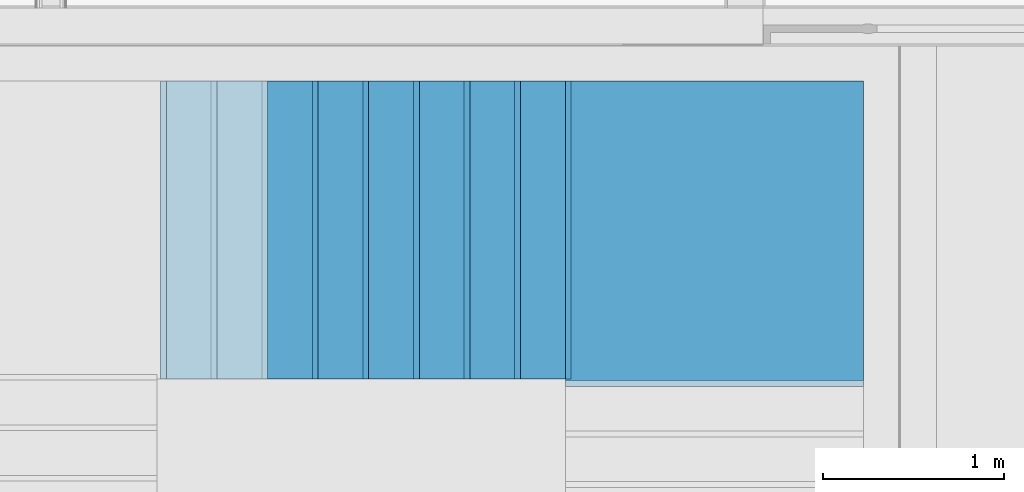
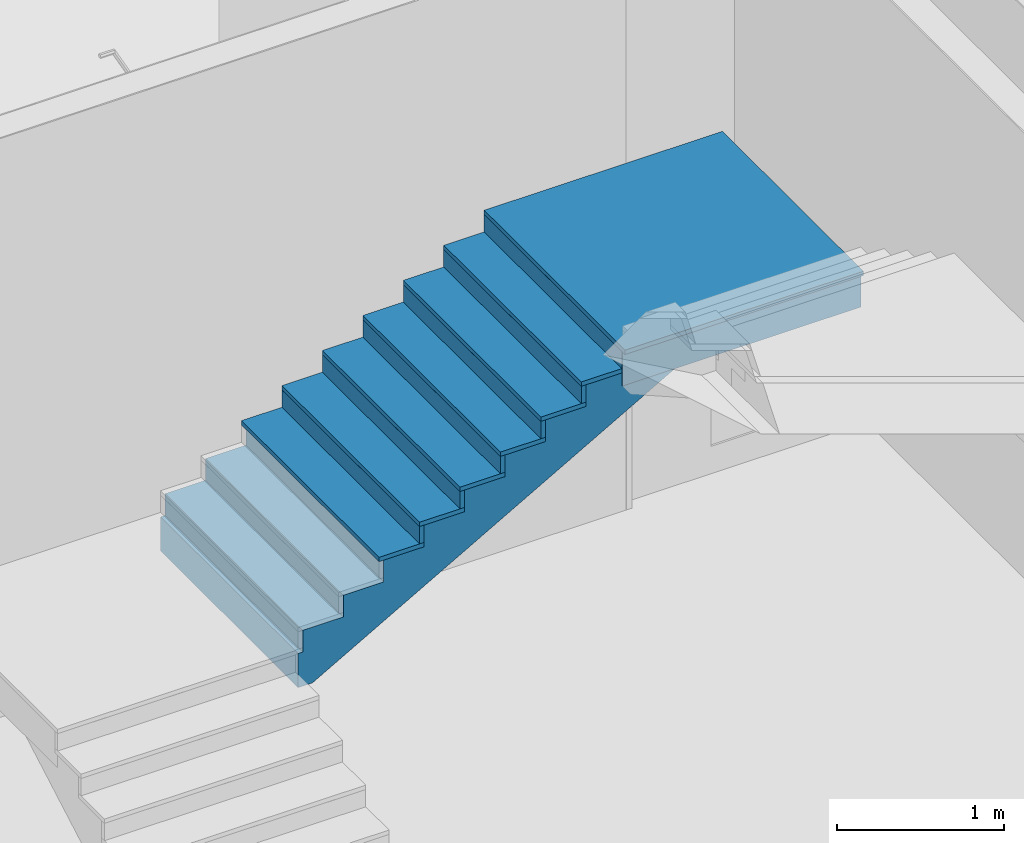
# One storey, part 83 of 260: 15 members, 1 element without a shape of its own.
"""IFC2X3 building model written with IfcOpenShell, lengths in millimetres."""

from ifc_helpers import new_model, entity, si_unit, converted_unit, derived_unit, money_unit, direction, frame, origin_with_axes, place, context, subcontext, project, spatial, faceted_brep, material, type_object, element, aggregate, save


model = new_model("IFC2X3")

# Units and contexts
model_context = context("Model", 3, precision=0.01, world=origin_with_axes(), true_north=direction((0.0, 1.0)))
body_context = subcontext(model_context, "Body", "Model", "MODEL_VIEW")
ifc_project = project(units=[si_unit("LENGTHUNIT", "METRE", prefix="MILLI"), si_unit("AREAUNIT", "SQUARE_METRE"), si_unit("VOLUMEUNIT", "CUBIC_METRE"), converted_unit("PLANEANGLEUNIT", "DEGREE", entity("IfcPlaneAngleMeasure", 0.0174532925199), si_unit("PLANEANGLEUNIT", "RADIAN"), dimensions=[0, 0, 0, 0, 0, 0, 0]), money_unit("EUR"), converted_unit("TIMEUNIT", "Year", entity("IfcTimeMeasure", 31556926.0), si_unit("TIMEUNIT", "SECOND"), dimensions=[0, 0, 1, 0, 0, 0, 0]), si_unit("MASSUNIT", "GRAM", prefix="KILO"), si_unit("THERMODYNAMICTEMPERATUREUNIT", "DEGREE_CELSIUS"), si_unit("LUMINOUSINTENSITYUNIT", "LUMEN"), si_unit("ENERGYUNIT", "JOULE", prefix="MEGA"), derived_unit("THERMALCONDUCTANCEUNIT", [(si_unit("POWERUNIT", "WATT"), 1), (si_unit("LENGTHUNIT", "METRE"), -1), (si_unit("THERMODYNAMICTEMPERATUREUNIT", "KELVIN"), -1)]), derived_unit("SPECIFICHEATCAPACITYUNIT", [(si_unit("ENERGYUNIT", "JOULE"), 1), (si_unit("MASSUNIT", "GRAM", prefix="KILO"), -1), (si_unit("THERMODYNAMICTEMPERATUREUNIT", "KELVIN"), -1)]), derived_unit("MASSDENSITYUNIT", [(si_unit("MASSUNIT", "GRAM", prefix="KILO"), 1), (si_unit("VOLUMEUNIT", "CUBIC_METRE"), -1)])], contexts=[model_context])

# Site, building, storey
site_placement = place(None, origin_with_axes())
site = spatial("IfcSite", under=ifc_project, at=site_placement, Name="Kolde pst 67a", CompositionType="ELEMENT")
building_placement = place(site_placement, origin_with_axes())
building = spatial("IfcBuilding", under=site, at=building_placement, Name="Riigigümnaasium", CompositionType="ELEMENT")
storey_placement = place(building_placement, origin_with_axes())
storey = spatial("IfcBuildingStorey", under=building, at=storey_placement, Name="1. korrus", CompositionType="ELEMENT", Elevation=0.0)

# Stair, members
stair_placement = place(storey_placement, frame((55074.9583238, 31162.4614213, 0.0), z_axis=(0.0, 0.0, 1.0), x_axis=(1.0, 0.0, 0.0)))
stair = element("IfcStair", 1, at=stair_placement, inside=storey, Name="TREPP", ShapeType="NOTDEFINED")
ifc_material_1 = material(Name="_KANDETARIND - raudbetoon C25/30 vastavalt EK osale")
member_type_1 = type_object("IfcMemberType", Name="IfcMember", PredefinedType="USERDEFINED")
member_1_placement = place(stair_placement, origin_with_axes())
member_1 = element("IfcMember", 2, at=member_1_placement, type_object=member_type_1, material=ifc_material_1, Name="TT KONSTRUKTSIOON - 016", ObjectType="Stair Structure", context=body_context, shape_type="Brep", body=[
    faceted_brep([(2350.02571284, 1222.51929532, 2414.55172414), (2350.02571284, 2872.51928463, 2414.55172414), (2350.02571284, 2872.51928463, 2505.93103448), (2350.02571284, 1222.51928463, 2505.93103448), (2727.91907393, 1222.51929532, 2414.55172414), (2727.91907393, 2872.51928463, 2414.55172414), (2350.02571284, 2872.51928463, 2200.4741979), (2256.6923795, 2872.51928463, 2147.60063468), (2163.35904617, 2872.51928463, 2094.72707146), (2070.02571284, 2872.51928463, 2041.85350824), (1976.6923795, 2872.51928463, 1988.97994502), (1883.35904617, 2872.51928463, 1936.10638181), (1790.02571284, 2872.51928463, 1883.23281859), (1696.6923795, 2872.51928463, 1830.35925537), (1603.35904617, 2872.51928463, 1777.48569215), (1510.02571284, 2872.51928463, 1724.61212893), (1416.6923795, 2872.51928463, 1671.73856571), (1323.35904617, 2872.51928463, 1618.86500249), (1230.02571284, 2872.51928463, 1565.99143928), (1136.6923795, 2872.51928463, 1513.11787606), (1043.35904617, 2872.51928463, 1460.24431284), (950.025712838, 2872.51928463, 1407.37074962), (856.692379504, 2872.51928463, 1354.4971864), (763.359046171, 2872.51928463, 1301.62362318), (670.025712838, 2872.51928463, 1248.75005997), (576.692379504, 2872.51928463, 1195.87649675), (483.359046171, 2872.51928463, 1143.00293353), (390.025712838, 2872.51928463, 1090.12937031), (296.692379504, 2872.51929065, 1037.25580709), (207.919085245, 2872.51929065, 986.965517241), (110.025712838, 2872.51928956, 986.965517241), (110.025712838, 2872.51928463, 1236.96551724), (142.025712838, 2872.51928463, 1236.96551724), (142.025712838, 2872.51928463, 1395.5862069), (422.025712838, 2872.51928463, 1395.5862069), (422.025712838, 2872.51928463, 1554.20689655), (702.025712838, 2872.51928463, 1554.20689655), (702.025712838, 2872.51928463, 1712.82758621), (982.025712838, 2872.51928463, 1712.82758621), (982.025712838, 2872.51928463, 1871.44827586), (1262.02571284, 2872.51928463, 1871.44827586), (1262.02571284, 2872.51928463, 2030.06896552), (1542.02571284, 2872.51928463, 2030.06896552), (1542.02571284, 2872.51928463, 2188.68965517), (1822.02571284, 2872.51928463, 2188.68965517), (1822.02571284, 2872.51928463, 2347.31034483), (2102.02571284, 2872.51928463, 2347.31034483), (2102.02571284, 2872.51928463, 2505.93103448), (2102.02571284, 1222.51928463, 2505.93103448), (2102.02571284, 1222.51928463, 2347.31034483), (1822.02571284, 1222.51928463, 2347.31034483), (1822.02571284, 1222.51928463, 2188.68965517), (1542.02571284, 1222.51928463, 2188.68965517), (1542.02571284, 1222.51928463, 2030.06896552), (1262.02571284, 1222.51928463, 2030.06896552), (1262.02571284, 1222.51928463, 1871.44827586), (982.025712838, 1222.51928463, 1871.44827586), (982.025712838, 1222.51928463, 1712.82758621), (702.025712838, 1222.51928463, 1712.82758621), (702.025712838, 1222.51928463, 1554.20689655), (422.025712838, 1222.51928463, 1554.20689655), (422.025712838, 1222.51928463, 1395.5862069), (142.025712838, 1222.51928463, 1395.5862069), (142.025712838, 1222.51928463, 1236.96551724), (110.025712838, 1222.51928463, 1236.96551724), (110.025712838, 1222.51928463, 986.965517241), (207.919085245, 1222.51928463, 986.965517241), (296.692379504, 1222.51928463, 1037.25580709), (390.025712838, 1222.51928463, 1090.12937031), (483.359046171, 1222.51928463, 1143.00293353), (576.692379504, 1222.51928463, 1195.87649675), (670.025712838, 1222.51928463, 1248.75005997), (763.359046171, 1222.51928463, 1301.62362318), (856.692379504, 1222.51928463, 1354.4971864), (950.025712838, 1222.51928463, 1407.37074962), (1043.35904617, 1222.51928463, 1460.24431284), (1136.6923795, 1222.51928463, 1513.11787606), (1230.02571284, 1222.51928463, 1565.99143928), (1323.35904617, 1222.51928463, 1618.86500249), (1416.6923795, 1222.51928463, 1671.73856571), (1510.02571284, 1222.51928463, 1724.61212893), (1603.35904617, 1222.51928463, 1777.48569215), (1696.6923795, 1222.51928463, 1830.35925537), (1790.02571284, 1222.51928463, 1883.23281859), (1883.35904617, 1222.51928463, 1936.10638181), (1976.6923795, 1222.51928463, 1988.97994502), (2070.02571284, 1222.51928463, 2041.85350824), (2163.35904617, 1222.51928463, 2094.72707146), (2256.6923795, 1222.51928463, 2147.60063468), (2350.02571284, 1222.51929532, 2200.4741979)], [[[0, 1, 2, 3]], [[1, 0, 4, 5]], [[6, 7, 8, 9, 10, 11, 12, 13, 14, 15, 16, 17, 18, 19, 20, 21, 22, 23, 24, 25, 26, 27, 28, 29, 30, 31, 32, 33, 34, 35, 36, 37, 38, 39, 40, 41, 42, 43, 44, 45, 46, 47, 2, 1, 5]], [[3, 2, 47, 48]], [[0, 3, 48, 49, 50, 51, 52, 53, 54, 55, 56, 57, 58, 59, 60, 61, 62, 63, 64, 65, 66, 67, 68, 69, 70, 71, 72, 73, 74, 75, 76, 77, 78, 79, 80, 81, 82, 83, 84, 85, 86, 87, 88, 89, 4]], [[89, 88, 7, 6, 5, 4]], [[87, 8, 7, 88]], [[86, 9, 8, 87]], [[85, 10, 9, 86]], [[84, 11, 10, 85]], [[83, 12, 11, 84]], [[82, 13, 12, 83]], [[81, 14, 13, 82]], [[80, 15, 14, 81]], [[79, 16, 15, 80]], [[78, 17, 16, 79]], [[77, 18, 17, 78]], [[76, 19, 18, 77]], [[75, 20, 19, 76]], [[74, 21, 20, 75]], [[73, 22, 21, 74]], [[72, 23, 22, 73]], [[71, 24, 23, 72]], [[70, 25, 24, 71]], [[69, 26, 25, 70]], [[68, 27, 26, 69]], [[67, 28, 27, 68]], [[66, 29, 28, 67]], [[65, 30, 29, 66]], [[30, 65, 64, 31]], [[64, 63, 32, 31]], [[32, 63, 62, 33]], [[33, 62, 61, 34]], [[34, 61, 60, 35]], [[35, 60, 59, 36]], [[36, 59, 58, 37]], [[37, 58, 57, 38]], [[38, 57, 56, 39]], [[39, 56, 55, 40]], [[40, 55, 54, 41]], [[41, 54, 53, 42]], [[42, 53, 52, 43]], [[43, 52, 51, 44]], [[44, 51, 50, 45]], [[45, 50, 49, 46]], [[46, 49, 48, 47]]]),
])
member_2_placement = place(stair_placement, origin_with_axes())
member_2 = element("IfcMember", 3, at=member_2_placement, type_object=member_type_1, material=ifc_material_1, Name="TM KONSTRUKTSIOON - 013", ObjectType="Stair Structure", context=body_context, shape_type="Brep", body=[
    faceted_brep([(2350.02571284, 1215.00000702, 2664.55172414), (4000.02570215, 1215.00000702, 2664.55172414), (4000.02570215, 2872.51928463, 2664.55172414), (2382.02570861, 2872.51927517, 2664.55172414), (2382.02570861, 1222.51929504, 2664.55172414), (2350.02571284, 1222.51929397, 2664.55172414), (4000.02570215, 1215.00000702, 2414.55172414), (2350.02571284, 1215.00000702, 2414.55172414), (4000.02570215, 2872.51928463, 2414.55172414), (2350.02571284, 2872.51928463, 2414.55172414), (2350.02571284, 2872.51927614, 2505.93103448), (2382.02570861, 2872.51927517, 2505.93103448), (2382.02570861, 1222.51929504, 2505.93103448), (2350.02571284, 1222.51929397, 2505.93103448)], [[[0, 1, 2, 3, 4, 5]], [[6, 1, 0, 7]], [[1, 6, 8, 2]], [[9, 10, 11, 3, 2, 8]], [[12, 4, 3, 11]], [[13, 5, 4, 12]], [[7, 0, 5, 13, 10, 9]], [[6, 7, 9, 8]], [[12, 11, 10, 13]]]),
])
ifc_material_2 = material(Name="_VIIMISTLUSKIHT - viimistlus vastavalt SA osale")
member_type_2 = type_object("IfcMemberType", Name="IfcMember", PredefinedType="USERDEFINED")
member_3_placement = place(stair_placement, frame((950.025712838, 2047.51928463, 1871.44827586), z_axis=(0.0, 0.0, 1.0), x_axis=(0.0, -1.0, 0.0)))
member_3 = element("IfcMember", 4, at=member_3_placement, type_object=member_type_2, material=ifc_material_2, Name="TV TÕUS - 120", ObjectType="Stair Riser", context=body_context, shape_type="Brep", body=[
    faceted_brep([(825.0, 0.0, 0.0), (825.0, 32.0, 0.0), (-825.0, 32.0, 0.0), (-825.0, 0.0, 0.0), (825.0, 0.0, -126.620689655), (825.0, 32.0, -126.620689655), (-825.0, 32.0, -126.620689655), (-825.0, 0.0, -126.620689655)], [[[0, 1, 2, 3]], [[0, 4, 5, 1]], [[1, 5, 6, 2]], [[3, 2, 6, 7]], [[4, 0, 3, 7]], [[5, 4, 7, 6]]]),
])
member_4_placement = place(stair_placement, frame((1230.02571284, 2047.51928463, 2030.06896552), z_axis=(0.0, 0.0, 1.0), x_axis=(0.0, -1.0, 0.0)))
member_4 = element("IfcMember", 5, at=member_4_placement, type_object=member_type_2, material=ifc_material_2, Name="TV TÕUS - 121", ObjectType="Stair Riser", context=body_context, shape_type="Brep", body=[
    faceted_brep([(825.0, 0.0, 0.0), (825.0, 32.0, 0.0), (-825.0, 32.0, 0.0), (-825.0, 0.0, 0.0), (825.0, 0.0, -126.620689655), (825.0, 32.0, -126.620689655), (-825.0, 32.0, -126.620689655), (-825.0, 0.0, -126.620689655)], [[[0, 1, 2, 3]], [[0, 4, 5, 1]], [[1, 5, 6, 2]], [[3, 2, 6, 7]], [[4, 0, 3, 7]], [[5, 4, 7, 6]]]),
])
member_5_placement = place(stair_placement, frame((1510.02571284, 2047.51928463, 2188.68965517), z_axis=(0.0, 0.0, 1.0), x_axis=(0.0, -1.0, 0.0)))
member_5 = element("IfcMember", 6, at=member_5_placement, type_object=member_type_2, material=ifc_material_2, Name="TV TÕUS - 122", ObjectType="Stair Riser", context=body_context, shape_type="Brep", body=[
    faceted_brep([(825.0, 0.0, 0.0), (825.0, 32.0, 0.0), (-825.0, 32.0, 0.0), (-825.0, 0.0, 0.0), (825.0, 0.0, -126.620689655), (825.0, 32.0, -126.620689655), (-825.0, 32.0, -126.620689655), (-825.0, 0.0, -126.620689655)], [[[0, 1, 2, 3]], [[0, 4, 5, 1]], [[1, 5, 6, 2]], [[3, 2, 6, 7]], [[4, 0, 3, 7]], [[5, 4, 7, 6]]]),
])
member_6_placement = place(stair_placement, frame((1790.02571284, 2047.51928463, 2347.31034483), z_axis=(0.0, 0.0, 1.0), x_axis=(0.0, -1.0, 0.0)))
member_6 = element("IfcMember", 7, at=member_6_placement, type_object=member_type_2, material=ifc_material_2, Name="TV TÕUS - 123", ObjectType="Stair Riser", context=body_context, shape_type="Brep", body=[
    faceted_brep([(825.0, 0.0, 0.0), (825.0, 32.0, 0.0), (-825.0, 32.0, 0.0), (-825.0, 0.0, 0.0), (825.0, 0.0, -126.620689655), (825.0, 32.0, -126.620689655), (-825.0, 32.0, -126.620689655), (-825.0, 0.0, -126.620689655)], [[[0, 1, 2, 3]], [[0, 4, 5, 1]], [[1, 5, 6, 2]], [[3, 2, 6, 7]], [[4, 0, 3, 7]], [[5, 4, 7, 6]]]),
])
member_7_placement = place(stair_placement, frame((2070.02571284, 2047.51928463, 2505.93103448), z_axis=(0.0, 0.0, 1.0), x_axis=(0.0, -1.0, 0.0)))
member_7 = element("IfcMember", 8, at=member_7_placement, type_object=member_type_2, material=ifc_material_2, Name="TV TÕUS - 124", ObjectType="Stair Riser", context=body_context, shape_type="Brep", body=[
    faceted_brep([(825.0, 0.0, 0.0), (825.0, 32.0, 0.0), (-825.0, 32.0, 0.0), (-825.0, 0.0, 0.0), (825.0, 0.0, -126.620689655), (825.0, 32.0, -126.620689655), (-825.0, 32.0, -126.620689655), (-825.0, 0.0, -126.620689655)], [[[0, 1, 2, 3]], [[0, 4, 5, 1]], [[1, 5, 6, 2]], [[3, 2, 6, 7]], [[4, 0, 3, 7]], [[5, 4, 7, 6]]]),
])
member_8_placement = place(stair_placement, frame((2350.02571284, 2047.51928463, 2664.55172414), z_axis=(0.0, 0.0, 1.0), x_axis=(0.0, -1.0, 0.0)))
member_8 = element("IfcMember", 9, at=member_8_placement, type_object=member_type_2, material=ifc_material_2, Name="SL RISER - 013", ObjectType="Stair Riser", context=body_context, shape_type="Brep", body=[
    faceted_brep([(825.0, 0.0, 0.0), (825.0, 32.0, 0.0), (-825.0, 32.0, 0.0), (-825.0, 0.0, 0.0), (825.0, 0.0, -126.620689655), (825.0, 32.0, -126.620689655), (-825.0, 32.0, -126.620689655), (-825.0, 0.0, -126.620689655)], [[[0, 1, 2, 3]], [[0, 4, 5, 1]], [[1, 5, 6, 2]], [[3, 2, 6, 7]], [[4, 0, 3, 7]], [[5, 4, 7, 6]]]),
])
member_type_3 = type_object("IfcMemberType", Name="IfcMember", PredefinedType="USERDEFINED")
member_9_placement = place(stair_placement, frame((670.025712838, 2047.51928463, 1744.82758621), z_axis=(0.0, 0.0, 1.0), x_axis=(0.0, -1.0, 0.0)))
member_9 = element("IfcMember", 10, at=member_9_placement, type_object=member_type_3, material=ifc_material_2, Name="TV ASTE - 119", ObjectType="Stair Tread", context=body_context, shape_type="Brep", body=[
    faceted_brep([(-825.0, 0.0, -32.0), (825.0, 0.0, -32.0), (825.0, 0.0, 0.0), (-825.0, 0.0, 0.0), (-825.0, 312.0, -32.0), (825.0, 312.0, -32.0), (825.0, 312.0, 0.0), (-825.0, 312.0, 0.0)], [[[0, 1, 2, 3]], [[0, 4, 5, 1]], [[1, 5, 6, 2]], [[3, 2, 6, 7]], [[4, 0, 3, 7]], [[5, 4, 7, 6]]]),
])
member_10_placement = place(stair_placement, frame((950.025712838, 2047.51928463, 1903.44827586), z_axis=(0.0, 0.0, 1.0), x_axis=(0.0, -1.0, 0.0)))
member_10 = element("IfcMember", 11, at=member_10_placement, type_object=member_type_3, material=ifc_material_2, Name="TV ASTE - 120", ObjectType="Stair Tread", context=body_context, shape_type="Brep", body=[
    faceted_brep([(-825.0, 0.0, -32.0), (825.0, 0.0, -32.0), (825.0, 0.0, 0.0), (-825.0, 0.0, 0.0), (-825.0, 312.0, -32.0), (825.0, 312.0, -32.0), (825.0, 312.0, 0.0), (-825.0, 312.0, 0.0)], [[[0, 1, 2, 3]], [[0, 4, 5, 1]], [[1, 5, 6, 2]], [[3, 2, 6, 7]], [[4, 0, 3, 7]], [[5, 4, 7, 6]]]),
])
member_11_placement = place(stair_placement, frame((1230.02571284, 2047.51928463, 2062.06896552), z_axis=(0.0, 0.0, 1.0), x_axis=(0.0, -1.0, 0.0)))
member_11 = element("IfcMember", 12, at=member_11_placement, type_object=member_type_3, material=ifc_material_2, Name="TV ASTE - 121", ObjectType="Stair Tread", context=body_context, shape_type="Brep", body=[
    faceted_brep([(-825.0, 0.0, -32.0), (825.0, 0.0, -32.0), (825.0, 0.0, 0.0), (-825.0, 0.0, 0.0), (-825.0, 312.0, -32.0), (825.0, 312.0, -32.0), (825.0, 312.0, 0.0), (-825.0, 312.0, 0.0)], [[[0, 1, 2, 3]], [[0, 4, 5, 1]], [[1, 5, 6, 2]], [[3, 2, 6, 7]], [[4, 0, 3, 7]], [[5, 4, 7, 6]]]),
])
member_12_placement = place(stair_placement, frame((1510.02571284, 2047.51928463, 2220.68965517), z_axis=(0.0, 0.0, 1.0), x_axis=(0.0, -1.0, 0.0)))
member_12 = element("IfcMember", 13, at=member_12_placement, type_object=member_type_3, material=ifc_material_2, Name="TV ASTE - 122", ObjectType="Stair Tread", context=body_context, shape_type="Brep", body=[
    faceted_brep([(-825.0, 0.0, -32.0), (825.0, 0.0, -32.0), (825.0, 0.0, 0.0), (-825.0, 0.0, 0.0), (-825.0, 312.0, -32.0), (825.0, 312.0, -32.0), (825.0, 312.0, 0.0), (-825.0, 312.0, 0.0)], [[[0, 1, 2, 3]], [[0, 4, 5, 1]], [[1, 5, 6, 2]], [[3, 2, 6, 7]], [[4, 0, 3, 7]], [[5, 4, 7, 6]]]),
])
member_13_placement = place(stair_placement, frame((1790.02571284, 2047.51928463, 2379.31034483), z_axis=(0.0, 0.0, 1.0), x_axis=(0.0, -1.0, 0.0)))
member_13 = element("IfcMember", 14, at=member_13_placement, type_object=member_type_3, material=ifc_material_2, Name="TV ASTE - 123", ObjectType="Stair Tread", context=body_context, shape_type="Brep", body=[
    faceted_brep([(-825.0, 0.0, -32.0), (825.0, 0.0, -32.0), (825.0, 0.0, 0.0), (-825.0, 0.0, 0.0), (-825.0, 312.0, -32.0), (825.0, 312.0, -32.0), (825.0, 312.0, 0.0), (-825.0, 312.0, 0.0)], [[[0, 1, 2, 3]], [[0, 4, 5, 1]], [[1, 5, 6, 2]], [[3, 2, 6, 7]], [[4, 0, 3, 7]], [[5, 4, 7, 6]]]),
])
member_14_placement = place(stair_placement, frame((2070.02571284, 2047.51928463, 2537.93103448), z_axis=(0.0, 0.0, 1.0), x_axis=(0.0, -1.0, 0.0)))
member_14 = element("IfcMember", 15, at=member_14_placement, type_object=member_type_3, material=ifc_material_2, Name="TV ASTE - 124", ObjectType="Stair Tread", context=body_context, shape_type="Brep", body=[
    faceted_brep([(-825.0, 0.0, -32.0), (825.0, 0.0, -32.0), (825.0, 0.0, 0.0), (-825.0, 0.0, 0.0), (-825.0, 312.0, -32.0), (825.0, 312.0, -32.0), (825.0, 280.0, -32.0), (825.0, 280.0, 0.0), (825.0, 312.0, 0.0), (-825.0, 312.0, 0.0)], [[[0, 1, 2, 3]], [[0, 4, 5, 6, 1]], [[1, 6, 7, 2]], [[3, 2, 7, 8, 9]], [[4, 0, 3, 9]], [[5, 4, 9, 8]], [[6, 5, 8, 7]]]),
])
member_15_placement = place(stair_placement, frame((2350.02571284, 2047.51928463, 2696.55172414), z_axis=(0.0, 0.0, 1.0), x_axis=(0.0, -1.0, 0.0)))
member_15 = element("IfcMember", 16, at=member_15_placement, type_object=member_type_3, material=ifc_material_2, Name="SL TREAD - 013", ObjectType="Stair Tread", context=body_context, shape_type="Brep", body=[
    faceted_brep([(-825.0, 1649.99998931, -32.0), (-825.0, 0.0, -32.0), (-825.0, 0.0, 0.0), (-825.0, 1649.99998931, 0.0), (864.519284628, 1649.99998931, -32.0), (864.519284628, 0.0, -32.0), (824.999989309, 0.0, -32.0), (824.999989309, 0.0, 0.0), (864.519284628, 0.0, 0.0), (864.519284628, 1649.99998931, 0.0)], [[[0, 1, 2, 3]], [[0, 4, 5, 6, 1]], [[1, 6, 7, 2]], [[3, 2, 7, 8, 9]], [[4, 0, 3, 9]], [[5, 4, 9, 8]], [[6, 5, 8, 7]]]),
])
aggregate(stair, [member_1, member_2, member_3, member_4, member_5, member_6, member_7, member_8, member_9, member_10, member_11, member_12, member_13, member_14, member_15])

save(model, "model.ifc")
